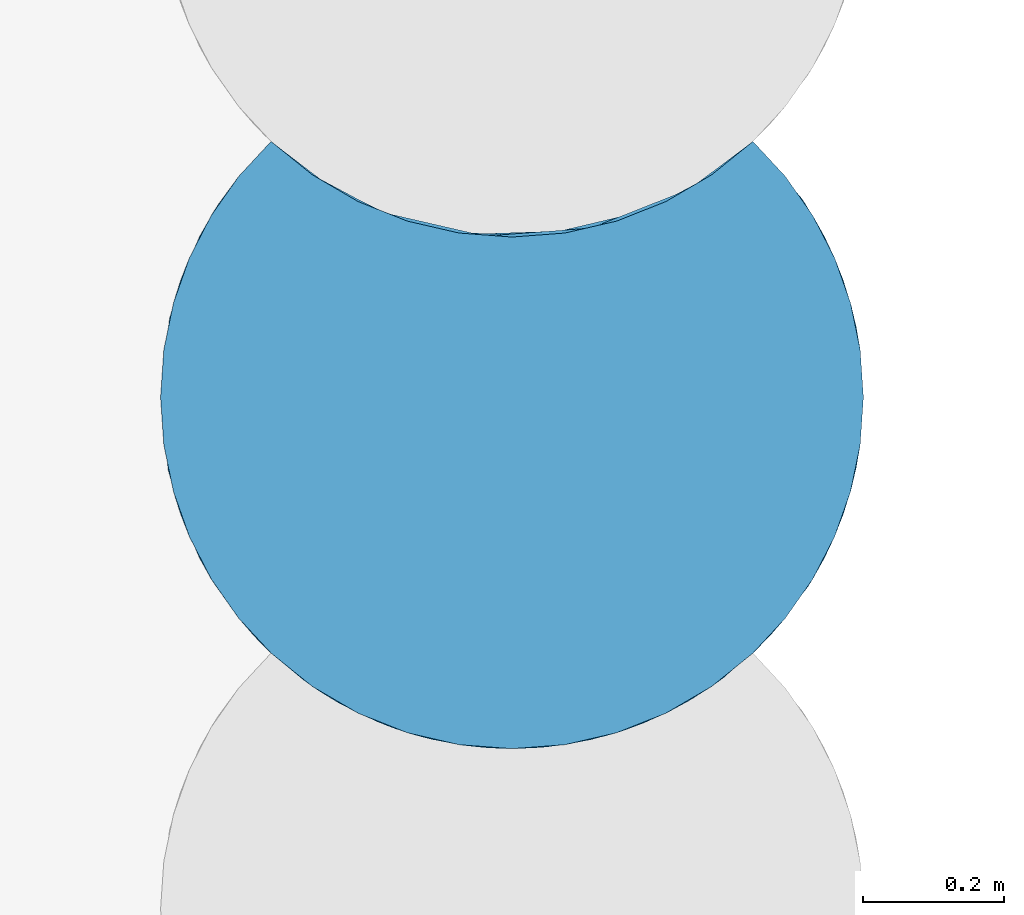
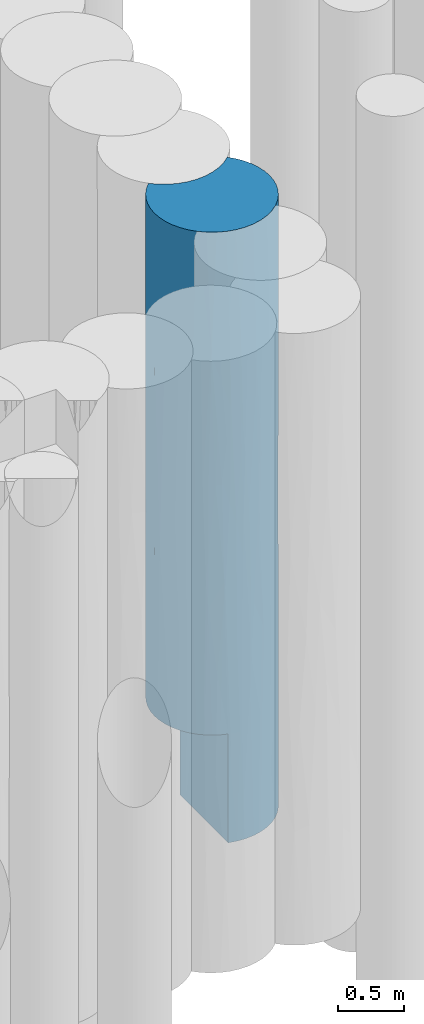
# One storey, part 55 of 104: 1 pile.
"""IFC2X3 building model written with IfcOpenShell, lengths in millimetres."""

from ifc_helpers import new_model, entity, si_unit, converted_unit, derived_unit, direction, frame, origin, place, context, subcontext, project, spatial, faceted_brep, source, transform, mapped, material, element, save


model = new_model("IFC2X3")

# Units and contexts
model_context = context("Model", 3, precision=0.01, world=origin(), true_north=direction((6.12303176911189e-17, 1.0)))
body_context = subcontext(model_context, "Body", "Model", "MODEL_VIEW")
ifc_project = project(units=[si_unit("LENGTHUNIT", "METRE", prefix="MILLI"), si_unit("AREAUNIT", "SQUARE_METRE", prefix="MILLI"), si_unit("VOLUMEUNIT", "CUBIC_METRE"), converted_unit("PLANEANGLEUNIT", "DEGREE", entity("IfcRatioMeasure", 0.0174532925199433), si_unit("PLANEANGLEUNIT", "RADIAN"), dimensions=[0, 0, 0, 0, 0, 0, 0]), si_unit("MASSUNIT", "GRAM", prefix="KILO"), derived_unit("MASSDENSITYUNIT", [(si_unit("MASSUNIT", "GRAM", prefix="KILO"), 1), (si_unit("LENGTHUNIT", "METRE"), -3)]), derived_unit("MOMENTOFINERTIAUNIT", [(si_unit("LENGTHUNIT", "METRE"), 4)]), si_unit("TIMEUNIT", "SECOND"), si_unit("FREQUENCYUNIT", "HERTZ"), si_unit("THERMODYNAMICTEMPERATUREUNIT", "DEGREE_CELSIUS"), derived_unit("THERMALTRANSMITTANCEUNIT", [(si_unit("MASSUNIT", "GRAM", prefix="KILO"), 1), (si_unit("THERMODYNAMICTEMPERATUREUNIT", "KELVIN"), -1), (si_unit("TIMEUNIT", "SECOND"), -3)]), derived_unit("VOLUMETRICFLOWRATEUNIT", [(si_unit("LENGTHUNIT", "METRE"), 3), (si_unit("TIMEUNIT", "SECOND"), -1)]), si_unit("ELECTRICCURRENTUNIT", "AMPERE"), si_unit("ELECTRICVOLTAGEUNIT", "VOLT"), si_unit("POWERUNIT", "WATT"), si_unit("FORCEUNIT", "NEWTON", prefix="KILO"), si_unit("ILLUMINANCEUNIT", "LUX"), si_unit("LUMINOUSFLUXUNIT", "LUMEN"), si_unit("LUMINOUSINTENSITYUNIT", "CANDELA"), derived_unit("USERDEFINED", [(si_unit("MASSUNIT", "GRAM", prefix="KILO"), -1), (si_unit("LENGTHUNIT", "METRE"), -2), (si_unit("TIMEUNIT", "SECOND"), 3), (si_unit("LUMINOUSFLUXUNIT", "LUMEN"), 1)]), derived_unit("LINEARVELOCITYUNIT", [(si_unit("LENGTHUNIT", "METRE"), 1), (si_unit("TIMEUNIT", "SECOND"), -1)]), si_unit("PRESSUREUNIT", "PASCAL"), derived_unit("USERDEFINED", [(si_unit("LENGTHUNIT", "METRE"), -2), (si_unit("MASSUNIT", "GRAM", prefix="KILO"), 1), (si_unit("TIMEUNIT", "SECOND"), -2)]), derived_unit("LINEARFORCEUNIT", [(si_unit("MASSUNIT", "GRAM", prefix="KILO"), 1), (si_unit("LENGTHUNIT", "METRE"), 1), (si_unit("TIMEUNIT", "SECOND"), -2), (si_unit("LENGTHUNIT", "METRE"), -1)]), derived_unit("PLANARFORCEUNIT", [(si_unit("MASSUNIT", "GRAM", prefix="KILO"), 1), (si_unit("LENGTHUNIT", "METRE"), 1), (si_unit("TIMEUNIT", "SECOND"), -2), (si_unit("LENGTHUNIT", "METRE"), -2)])], contexts=[model_context])

# Site, building, storey
site_placement = place(None, origin())
site = spatial("IfcSite", under=ifc_project, at=site_placement, Name="Theater aan de Parade", CompositionType="ELEMENT")
building_placement = place(site_placement, origin())
building = spatial("IfcBuilding", under=site, at=building_placement, Name="Theater aan de Parade", CompositionType="ELEMENT")
storey_placement = place(building_placement, frame((0.0, 0.0, -5520.0)))
storey = spatial("IfcBuildingStorey", under=building, at=storey_placement, Name="-2 kelder", CompositionType="ELEMENT", Elevation=-5520.0)

# Pile
ifc_material = material(Name="00_PBT_MAT_grout")
shared_shape = source(origin(), body_context, "Body", "Brep", [
    faceted_brep([(890.546518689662, 815.787773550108, 0.0), (929.522999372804, 760.202813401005, 0.0), (960.609902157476, 699.851595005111, 0.0), (983.235934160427, 635.84233097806, 0.0), (996.98227680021, 569.357471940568, 0.0), (1001.59527223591, 501.595272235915, 0.0), (996.982552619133, 433.835088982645, 0.0), (983.235228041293, 367.345680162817, 0.0), (960.607316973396, 303.332964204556, 0.0), (929.517904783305, 242.979301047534, 0.0), (890.53974752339, 187.394388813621, 0.0), (844.395954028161, 137.612924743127, 0.0), (787.16483381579, 91.1686338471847, 0.0), (723.73631667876, 53.651797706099, 0.0), (655.481623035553, 25.8653162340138, 0.0), (583.883200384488, 8.41305755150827, 0.0), (510.496193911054, 1.67450492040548, 0.0), (436.915459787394, 5.79639984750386, 0.0), (364.737142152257, 20.6900297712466, 0.0), (364.737142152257, 748.690029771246, 0.0), (436.90935192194, 733.797196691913, 0.0), (510.487049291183, 729.674342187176, 0.0), (583.871954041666, 736.41118122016, 0.0), (655.469938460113, 753.861536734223, 0.0), (723.725648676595, 781.646507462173, 0.0), (787.156098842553, 819.162556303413, 0.0), (844.383836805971, 865.595272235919, 0.0), (946.091901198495, 730.555414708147, 1043.52260300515), (844.383836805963, 865.59527223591, 1561.53793450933), (991.802660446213, 600.067179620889, 2700.88189763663), (1001.59527223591, 501.595272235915, 1561.53772532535), (973.010577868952, 668.231431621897, 1936.06593957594), (985.215355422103, 628.526809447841, 1004.42467996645), (1001.59527223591, 501.595272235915, 4058.46227467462), (1001.59527223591, 501.595272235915, 3123.0754506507), (973.010577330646, 668.231433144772, 3903.08947333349), (929.522999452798, 760.202813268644, 5620.0), (960.609902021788, 699.851595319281, 5620.0), (946.091900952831, 730.555415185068, 4676.41921628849), (913.551239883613, 784.954197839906, 2342.3065651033), (844.383836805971, 865.595272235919, 3123.07526473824), (918.831384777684, 777.120273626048, 3590.76885473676), (991.238840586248, 602.833486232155, 4676.41593122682), (844.383836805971, 865.59527223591, 2342.306559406), (890.546518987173, 815.787773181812, 5620.0), (1001.59527223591, 501.595272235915, 5620.0), (844.383836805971, 865.59527223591, 4058.46206549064), (844.383836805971, 865.595272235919, 5620.0), (959.857267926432, 701.585130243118, 2919.57770266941), (983.235934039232, 635.842331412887, 5620.0), (996.982276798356, 569.35747195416, 5620.0), (75.535501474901, 239.921674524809, 1994.39433055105), (30.1797429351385, 334.959745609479, 2218.28268253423), (42.582206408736, 303.335328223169, 1000.0), (249.344536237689, 69.8898562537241, 4477.64028937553), (158.806707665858, 137.59527223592, 5620.0), (134.878781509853, 161.714388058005, 4204.32385528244), (73.1025715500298, 243.924929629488, 4207.11061054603), (30.1799661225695, 334.959114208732, 4401.70440777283), (57.1029969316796, 272.626677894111, 3309.99064385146), (204.660366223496, 99.3146965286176, 1000.0), (227.371021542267, 83.5031049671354, 2160.49952016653), (158.806707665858, 137.59527223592, 1000.0), (308.346723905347, 40.4499604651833, 1000.0), (336.246493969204, 29.7268779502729, 2397.27757697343), (112.658831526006, 187.384443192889, 1000.0), (134.886789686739, 161.705747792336, 2410.71841601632), (663.932569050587, 28.6823816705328, 934.425625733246), (1.5952722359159, 501.595272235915, 2561.53770843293), (1.5952722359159, 501.595272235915, 1000.0), (6.20628386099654, 433.847577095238, 1000.0), (229.215704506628, 82.2989914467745, 3303.66461307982), (460.172142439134, 3.31410229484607, 994.544109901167), (547.31401690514, 3.68986316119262, 1387.25893630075), (433.611976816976, 6.23856082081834, 1852.86551730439), (364.737142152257, 20.6900297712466, 1000.0), (973.009053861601, 334.954801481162, 1936.08516455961), (946.088153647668, 272.627854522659, 1043.53969615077), (985.213296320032, 374.655889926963, 1004.42933635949), (890.546518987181, 187.402771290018, 5620.0), (946.091901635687, 272.635130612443, 4676.41921033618), (929.522999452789, 242.987731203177, 5620.0), (375.205583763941, 17.8332991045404, 4812.35143846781), (282.644601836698, 52.0837552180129, 5620.0), (254.743436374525, 66.7801723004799, 1000.0), (868.311763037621, 161.714388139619, 4258.14392621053), (844.383836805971, 137.595272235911, 5620.0), (753.846008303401, 69.8898562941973, 4800.53334285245), (112.644025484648, 187.402771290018, 5620.0), (42.5806424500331, 303.338949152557, 5620.0), (151.103232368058, 145.006811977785, 3307.53404869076), (73.6753405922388, 242.974832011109, 1000.0), (973.010578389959, 334.959114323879, 3903.08946802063), (991.238840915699, 400.357059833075, 4676.41592103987), (19.953191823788, 367.353302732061, 1000.0), (539.331900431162, 3.02135906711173, 3038.70327224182), (632.292272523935, 18.9791783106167, 2619.96956137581), (661.185093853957, 27.7481567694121, 3478.29436692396), (1.5952722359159, 501.595272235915, 5620.0), (1.5952722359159, 501.595272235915, 4123.07541686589), (6.20826767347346, 433.833072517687, 5620.0), (959.03284775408, 299.72683858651, 2919.59475995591), (991.557708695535, 401.911718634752, 2715.80956584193), (960.609902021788, 303.338949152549, 5620.0), (485.427200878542, 1.85674713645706, 3803.51644471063), (428.94373235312, 6.9016764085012, 2922.60776554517), (922.600198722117, 231.864198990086, 2115.24967579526), (19.9546104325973, 367.34821305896, 5620.0), (756.142700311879, 71.2400621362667, 1012.06034369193), (463.858644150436, 3.02135905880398, 4693.02600419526), (389.245844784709, 14.3811446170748, 3987.40728501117), (73.6675450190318, 242.987731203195, 5620.0), (217.483259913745, 90.1583214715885, 5620.0), (726.994214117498, 55.2822464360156, 2859.16529722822), (690.121590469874, 38.4993563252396, 1836.52804321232), (650.395275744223, 24.2499475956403, 5620.0), (613.944699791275, 14.3811446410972, 4259.35054825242), (794.694442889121, 96.5114831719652, 2051.18962210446), (320.066399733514, 35.7119515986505, 3323.81988614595), (925.761097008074, 236.862665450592, 3732.47138341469), (554.377818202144, 4.38907472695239, 2217.52824747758), (868.306366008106, 161.708565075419, 1387.65375479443), (426.337278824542, 7.29148464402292, 5620.0), (501.595272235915, 1.5952722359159, 5620.0), (753.846008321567, 69.8898563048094, 3910.60191686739), (996.982276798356, 433.83307251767, 5620.0), (983.235934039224, 367.348213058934, 5620.0), (12.4043080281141, 398.192174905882, 3331.87000257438), (352.795268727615, 24.2499475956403, 5620.0), (576.853265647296, 7.29148464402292, 5620.0), (720.545942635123, 52.0837552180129, 5620.0), (785.707284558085, 90.1583214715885, 5620.0), (803.35254702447, 102.919279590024, 3201.1623369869), (868.30636604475, 161.708565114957, 2809.99739513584), (785.695330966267, 818.150067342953, 5620.0), (720.53458465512, 780.078223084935, 5620.0), (650.386060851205, 752.247075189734, 5620.0), (576.847851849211, 735.290660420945, 5620.0), (501.595272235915, 729.595272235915, 5620.0), (426.342692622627, 735.290660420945, 5620.0), (352.804483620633, 752.247075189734, 5620.0), (282.655959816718, 780.078223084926, 5620.0), (217.495213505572, 818.150067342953, 5620.0), (158.806707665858, 865.59527223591, 5620.0), (112.651085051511, 815.796512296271, 5620.0), (73.6726367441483, 760.211238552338, 5620.0), (42.5833372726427, 699.857834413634, 5620.0), (19.9555086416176, 635.845553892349, 5620.0), (6.20818208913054, 569.356846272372, 5620.0), (326.888569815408, 761.110941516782, 2273.76175162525), (364.737142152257, 748.690029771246, 1000.0), (290.148891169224, 776.50540484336, 1000.0), (663.924183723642, 756.679503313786, 934.401469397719), (547.303786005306, 731.68892384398, 1387.23923752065), (781.045655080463, 814.977998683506, 2773.42718946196), (240.363287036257, 803.264590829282, 4116.62238301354), (317.204383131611, 764.837270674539, 4637.58130561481), (317.204383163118, 764.837270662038, 3595.66346068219), (613.937329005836, 742.37944502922, 4689.57401699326), (753.834283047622, 797.88300529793, 4689.57401709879), (234.872589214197, 806.678010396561, 2140.44524759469), (230.480195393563, 809.48026999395, 3093.76199973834), (463.861374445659, 731.021152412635, 4259.36317355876), (417.410361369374, 736.73332322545, 2996.0295336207), (438.083118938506, 733.645469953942, 1887.43420480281), (220.920469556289, 815.805887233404, 1000.0), (158.806707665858, 865.59527223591, 1000.0), (756.132996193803, 799.234322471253, 1012.04504520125), (685.986161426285, 764.837270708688, 3979.39545034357), (592.819728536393, 737.987604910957, 3801.56044529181), (158.806707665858, 865.59527223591, 4058.46229263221), (462.725547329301, 731.108417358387, 891.335237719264), (690.110388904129, 766.49479632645, 1836.49016507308), (692.005096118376, 767.27060388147, 2908.69057816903), (775.575679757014, 811.343271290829, 1951.9221326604), (771.745207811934, 808.858998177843, 3590.76885307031), (158.806707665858, 865.59527223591, 4123.07645993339), (598.023678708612, 738.981817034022, 2235.58558257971), (539.329170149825, 731.021152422, 3038.71020903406), (158.806707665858, 865.59527223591, 2496.92458526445), (158.80670766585, 865.59527223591, 2561.53628203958), (57.0976620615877, 730.553509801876, 2936.01182480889), (77.6278143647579, 766.645446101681, 2004.37665318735), (30.1816560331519, 668.236210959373, 4223.57134425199), (14.2722960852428, 613.4716187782, 3074.8464224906), (30.1762796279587, 668.221000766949, 2043.51622702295), (42.5776896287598, 699.844758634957, 1000.0), (19.9506701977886, 635.828194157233, 1000.0), (73.6691815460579, 760.205521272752, 1000.0), (83.5815302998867, 775.939055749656, 4493.2279204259), (6.20537477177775, 569.336319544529, 1000.0), (112.651806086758, 815.797404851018, 1000.0)], [[[0, 1, 2, 3, 4, 5, 6, 7, 8, 9, 10, 11, 12, 13, 14, 15, 16, 17, 18, 19, 20, 21, 22, 23, 24, 25, 26]], [[27, 0, 28]], [[27, 2, 1]], [[29, 30, 31]], [[27, 32, 2]], [[33, 34, 35]], [[3, 2, 32]], [[36, 37, 38]], [[39, 40, 41]], [[38, 42, 35]], [[39, 28, 43, 40]], [[44, 36, 38]], [[45, 33, 42]], [[46, 47, 44]], [[0, 26, 28]], [[31, 48, 29]], [[5, 4, 30]], [[37, 49, 38]], [[4, 3, 32]], [[49, 50, 42]], [[39, 27, 28]], [[42, 38, 49]], [[46, 41, 40]], [[41, 38, 35]], [[27, 31, 32]], [[44, 38, 46]], [[0, 27, 1]], [[45, 42, 50]], [[33, 35, 42]], [[38, 41, 46]], [[48, 41, 35]], [[48, 39, 41]], [[27, 39, 31]], [[31, 30, 32]], [[4, 32, 30]], [[29, 35, 34]], [[39, 48, 31]], [[35, 29, 48]], [[30, 29, 34]], [[51, 52, 53]], [[54, 55, 56]], [[57, 58, 59]], [[60, 61, 62]], [[63, 64, 61]], [[65, 66, 51]], [[67, 14, 13]], [[68, 69, 70]], [[64, 71, 61]], [[72, 73, 74]], [[75, 18, 17]], [[76, 77, 78]], [[79, 80, 81]], [[54, 82, 83]], [[63, 61, 84]], [[85, 86, 87]], [[30, 78, 6]], [[64, 63, 75]], [[88, 56, 55]], [[66, 65, 62]], [[57, 89, 58]], [[71, 90, 61]], [[51, 53, 91]], [[92, 33, 93]], [[70, 94, 52]], [[95, 96, 97]], [[98, 99, 100]], [[100, 99, 58]], [[92, 101, 102]], [[103, 81, 80]], [[95, 104, 105]], [[106, 76, 101]], [[89, 107, 58]], [[71, 54, 56]], [[108, 13, 12]], [[109, 82, 110]], [[57, 111, 89]], [[112, 54, 83]], [[113, 96, 114]], [[87, 115, 116]], [[54, 110, 82]], [[114, 117, 113]], [[64, 118, 71]], [[64, 74, 105]], [[16, 73, 72]], [[119, 80, 85]], [[16, 15, 73]], [[74, 120, 105]], [[120, 114, 96]], [[121, 108, 11]], [[122, 109, 123]], [[106, 77, 76]], [[54, 71, 118]], [[67, 13, 108]], [[10, 121, 11]], [[54, 112, 55]], [[30, 6, 5]], [[116, 124, 87]], [[45, 125, 93]], [[93, 125, 126]], [[77, 9, 8]], [[127, 52, 59]], [[127, 99, 68]], [[78, 77, 8]], [[8, 7, 78]], [[100, 58, 107]], [[70, 52, 68]], [[34, 33, 92]], [[82, 122, 128]], [[79, 86, 85]], [[116, 109, 104]], [[127, 59, 58]], [[109, 129, 123]], [[115, 129, 116]], [[57, 88, 111]], [[108, 117, 114]], [[108, 114, 67]], [[10, 9, 77]], [[130, 87, 131]], [[131, 87, 86]], [[59, 52, 51]], [[66, 61, 90]], [[101, 92, 119]], [[92, 93, 80]], [[80, 93, 126]], [[80, 119, 92]], [[80, 79, 85]], [[132, 85, 124]], [[80, 126, 103]], [[90, 59, 66]], [[102, 30, 34]], [[15, 14, 67]], [[10, 77, 121]], [[94, 53, 52]], [[45, 93, 33]], [[11, 108, 12]], [[117, 108, 121]], [[104, 109, 110]], [[129, 109, 116]], [[87, 130, 115]], [[85, 87, 124]], [[121, 133, 117]], [[113, 132, 124]], [[85, 133, 119]], [[133, 106, 101]], [[133, 101, 119]], [[102, 101, 76]], [[133, 121, 106]], [[77, 106, 121]], [[99, 127, 58]], [[52, 127, 68]], [[132, 117, 133]], [[124, 116, 97]], [[30, 102, 76]], [[92, 102, 34]], [[6, 78, 7]], [[30, 76, 78]], [[110, 118, 105]], [[116, 104, 95]], [[110, 105, 104]], [[64, 75, 74]], [[72, 74, 75]], [[74, 73, 120]], [[114, 73, 67]], [[15, 67, 73]], [[97, 96, 113]], [[120, 96, 95]], [[124, 97, 113]], [[95, 97, 116]], [[120, 95, 105]], [[114, 120, 73]], [[122, 82, 109]], [[82, 128, 83]], [[75, 17, 72]], [[16, 72, 17]], [[117, 132, 113]], [[85, 132, 133]], [[62, 61, 66]], [[84, 61, 60]], [[105, 118, 64]], [[54, 118, 110]], [[71, 56, 90]], [[90, 56, 57]], [[90, 57, 59]], [[57, 56, 88]], [[65, 51, 91]], [[59, 51, 66]], [[134, 135, 136, 137, 138, 139, 140, 141, 142, 143, 144, 145, 146, 147, 148, 98, 100, 107, 89, 111, 88, 55, 112, 83, 128, 122, 123, 129, 115, 130, 131, 86, 79, 81, 103, 126, 125, 45, 50, 49, 37, 36, 44, 47]], [[149, 150, 151]], [[152, 24, 23]], [[20, 19, 150]], [[22, 21, 153]], [[43, 154, 40]], [[155, 156, 157]], [[158, 136, 135, 159]], [[156, 141, 140]], [[160, 161, 149]], [[157, 156, 162]], [[151, 160, 149]], [[163, 164, 149]], [[160, 165, 166]], [[162, 156, 139]], [[26, 167, 28]], [[168, 169, 158]], [[24, 167, 25]], [[170, 142, 155]], [[171, 153, 21]], [[142, 141, 156]], [[150, 171, 20]], [[161, 157, 149]], [[159, 134, 47]], [[152, 167, 24]], [[135, 134, 159]], [[150, 149, 164]], [[172, 167, 152]], [[173, 154, 174]], [[40, 175, 46]], [[142, 170, 176, 143]], [[138, 162, 139]], [[150, 164, 171]], [[173, 177, 178]], [[158, 162, 138]], [[168, 158, 159]], [[157, 162, 163]], [[161, 155, 157]], [[136, 158, 137]], [[140, 139, 156]], [[153, 177, 172]], [[22, 152, 23]], [[25, 167, 26]], [[174, 172, 173]], [[137, 158, 138]], [[178, 162, 169]], [[168, 159, 175]], [[46, 159, 47]], [[46, 175, 159]], [[168, 175, 173]], [[169, 168, 173]], [[43, 28, 174]], [[28, 167, 174]], [[175, 40, 154]], [[172, 174, 167]], [[158, 169, 162]], [[178, 169, 173]], [[156, 155, 142]], [[161, 179, 180, 170]], [[155, 161, 170]], [[160, 179, 161]], [[179, 160, 166]], [[165, 160, 151]], [[152, 153, 172]], [[153, 152, 22]], [[153, 164, 177]], [[178, 164, 163]], [[178, 163, 162]], [[163, 149, 157]], [[175, 154, 173]], [[174, 154, 43]], [[172, 177, 173]], [[178, 177, 164]], [[20, 171, 21]], [[153, 171, 164]], [[181, 176, 170, 180]], [[181, 180, 182]], [[183, 181, 184]], [[185, 182, 186]], [[185, 186, 187]], [[188, 186, 182]], [[184, 99, 183]], [[99, 98, 148]], [[144, 176, 189]], [[143, 176, 144]], [[185, 190, 68]], [[191, 182, 180]], [[184, 181, 185]], [[191, 180, 179, 166]], [[190, 185, 187]], [[148, 147, 183]], [[182, 191, 188]], [[183, 189, 181]], [[190, 69, 68]], [[146, 189, 183]], [[145, 189, 146]], [[185, 181, 182]], [[148, 183, 99]], [[184, 185, 68]], [[99, 184, 68]], [[183, 147, 146]], [[144, 189, 145]], [[181, 189, 176]], [[186, 188, 191, 166, 165, 151, 150, 75, 63, 84, 60, 62, 65, 91, 53, 94, 70, 69, 190, 187]], [[150, 19, 18, 75]]]),
])
pile_placement = place(storey_placement, frame((41760.2628578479, 39439.2179922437, -3840.0)))
element("IfcPile", 1, at=pile_placement, inside=storey, material=ifc_material, Name="17_PBT_SFO_grondkering_rond:Ø1000 (grondkering)", ObjectType="17_PBT_SFO_grondkering_rond:Ø1000 (grondkering)", PredefinedType="NOTDEFINED", context=body_context, shape_type="MappedRepresentation", body=[
    mapped(shared_shape, transform((0.0, 0.0, 0.0), scale=1.0)),
])

save(model, "model.ifc")
